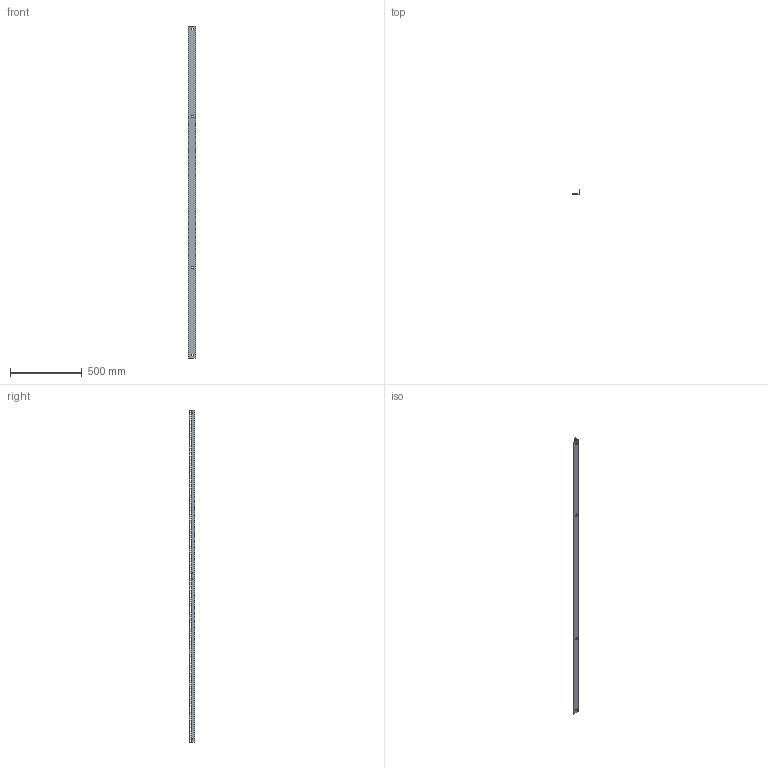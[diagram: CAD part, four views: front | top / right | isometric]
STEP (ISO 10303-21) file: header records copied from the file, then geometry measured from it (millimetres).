
FILE_DESCRIPTION(/* description */ ('Unknown'),/* implementation_level */ '2;1');
FILE_NAME(/* name */ 'H1SRR52U24BK',/* time_stamp */ '2021-03-18T08:07:20-04:00',/* author */ ('Unknown'),/* organization */ ('Unknown'),/* preprocessor_version */ 'ST-DEVELOPER v16.7',/* originating_system */ 'Solid Edge',/* authorisation */ 'Unknown');
FILE_SCHEMA (('AUTOMOTIVE_DESIGN {1 0 10303 214 3 1 1}'));
Length unit declared in the file: millimetre
Products named in the file (1): COM57244-24LW
Bounding box: 50.8 x 35.41 x 2312.16 mm (x, y, z)
Volume: 425504.9 mm3; surface area: 379614 mm2
Topology: 1 solids, 1 shells, 777 faces, 2284 edges, 1524 vertices
Faces by surface type: plane 732, cylinder 34, bspline 11
Full cylindrical faces by diameter (mm): 4.496 x4
Entity records: 26382 total; most frequent: CARTESIAN_POINT 5193, ORIENTED_EDGE 4552, DIRECTION 3782, EDGE_CURVE 2276, LINE 2112, VECTOR 2112, VERTEX_POINT 1520, EDGE_LOOP 1124
